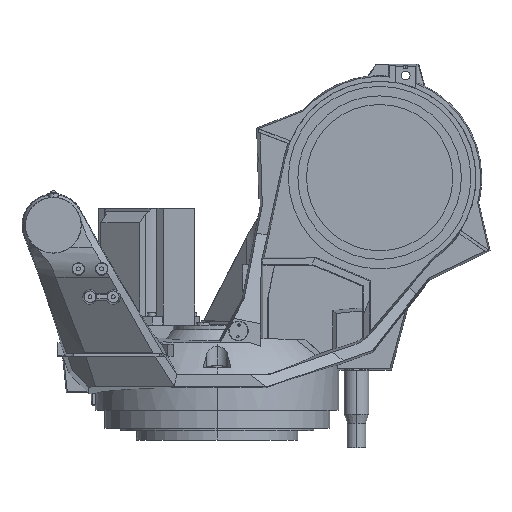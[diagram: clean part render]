
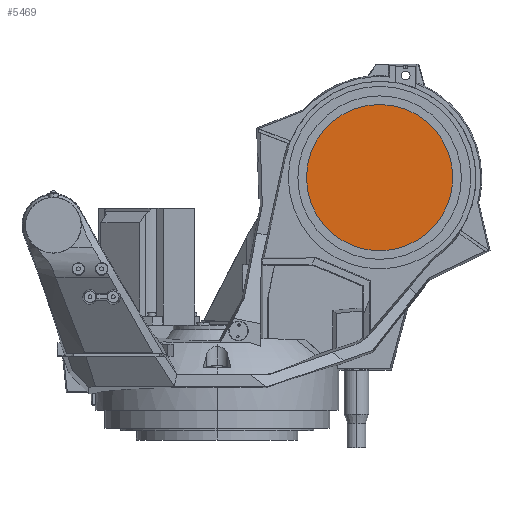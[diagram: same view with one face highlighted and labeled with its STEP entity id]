
A CAD part, front view. The second image highlights one B-rep face of the part: STEP entity #5469.
In plain terms, the highlighted planar face has unit normal (0, -1, 0).
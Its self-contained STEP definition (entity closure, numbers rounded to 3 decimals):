
#5469 = ADVANCED_FACE ( 'NONE', ( #26692 ), #30885, .F. ) ;
#10454 = EDGE_CURVE ( 'NONE', #38242, #38181, #28010, .T. ) ;
#12354 = EDGE_LOOP ( 'NONE', ( #36222, #36223 ) ) ;
#19523 = EDGE_CURVE ( 'NONE', #38181, #38242, #21204, .T. ) ;
#21204 = CIRCLE ( 'NONE', #28920, 157.5 ) ;
#23890 = CARTESIAN_POINT ( 'NONE',  ( 350., -137., 780. ) ) ;
#23892 = DIRECTION ( 'NONE',  ( 0., -1., 0. ) ) ;
#23894 = DIRECTION ( 'NONE',  ( 1., 0., 0. ) ) ;
#26692 = FACE_OUTER_BOUND ( 'NONE', #12354, .T. ) ;
#28010 = CIRCLE ( 'NONE', #33843, 157.5 ) ;
#28920 = AXIS2_PLACEMENT_3D ( 'NONE', #23890, #23892, #23894 ) ;
#29771 = CARTESIAN_POINT ( 'NONE',  ( 350., -137., 780. ) ) ;
#29772 = DIRECTION ( 'NONE',  ( 0., -1., 0. ) ) ;
#29773 = DIRECTION ( 'NONE',  ( 1., 0., 0. ) ) ;
#30870 = CARTESIAN_POINT ( 'NONE',  ( 350., -137., 870. ) ) ;
#30885 = PLANE ( 'NONE',  #33773 ) ;
#30890 = DIRECTION ( 'NONE',  ( 0., 1., 0. ) ) ;
#30892 = DIRECTION ( 'NONE',  ( -1., 0., 0. ) ) ;
#33773 = AXIS2_PLACEMENT_3D ( 'NONE', #30870, #30890, #30892 ) ;
#33843 = AXIS2_PLACEMENT_3D ( 'NONE', #29771, #29772, #29773 ) ;
#34399 = CARTESIAN_POINT ( 'NONE',  ( 507.5, -137., 780. ) ) ;
#34457 = CARTESIAN_POINT ( 'NONE',  ( 192.5, -137., 780. ) ) ;
#36222 = ORIENTED_EDGE ( 'NONE', *, *, #19523, .T. ) ;
#36223 = ORIENTED_EDGE ( 'NONE', *, *, #10454, .T. ) ;
#38181 = VERTEX_POINT ( 'NONE', #34399 ) ;
#38242 = VERTEX_POINT ( 'NONE', #34457 ) ;
